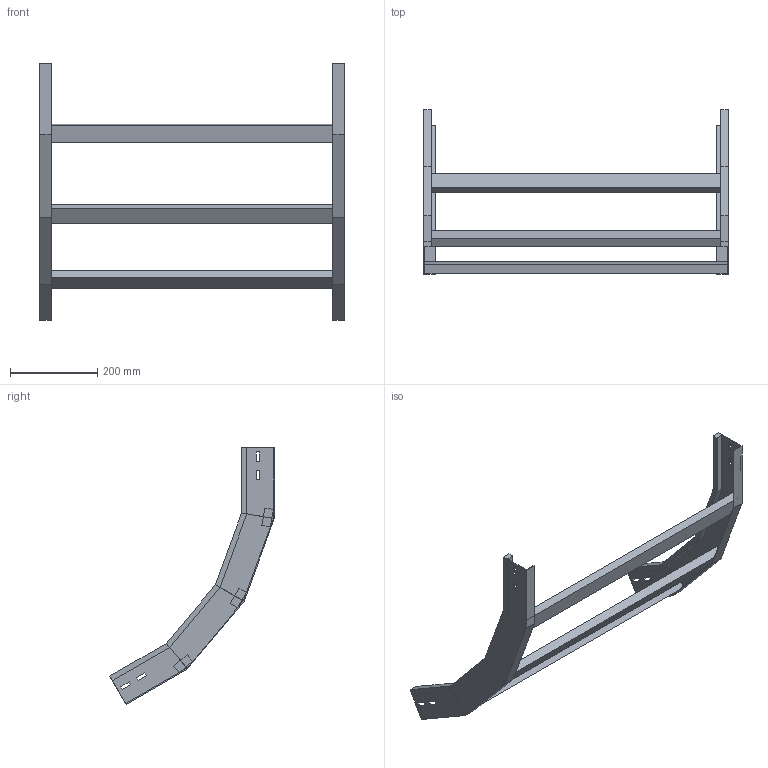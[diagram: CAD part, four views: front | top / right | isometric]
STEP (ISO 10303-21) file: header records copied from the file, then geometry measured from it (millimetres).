
FILE_DESCRIPTION (( 'STEP AP214' ), '1' );
FILE_NAME ('A2X40B5C700XX.step', '2025-03-20T10:17:29', ( '' ), ( '' ), 'SwSTEP 2.0', 'SolidWorks 2023', '' );
FILE_SCHEMA (( 'AUTOMOTIVE_DESIGN' ));
Length unit declared in the file: millimetre
Products named in the file (3): A2X40B5C700XX; TRAVERSINO_700; LONGH.SALITA_60°_H75_R500
Assembly tree (5 placements, depth 2):
  A2X40B5C700XX
    LONGH.SALITA_60°_H75_R500  x2
    TRAVERSINO_700  x3
Bounding box: 700 x 377.79 x 589.4 mm (x, y, z)
Volume: 2221410 mm3; surface area: 585291.6 mm2
Topology: 5 solids, 5 shells, 118 faces, 276 edges, 168 vertices
Faces by surface type: plane 118
Entity records: 1672 total; most frequent: CARTESIAN_POINT 276, ORIENTED_EDGE 264, DIRECTION 260, LINE 132, EDGE_CURVE 132, VECTOR 132, VERTEX_POINT 80, AXIS2_PLACEMENT_3D 64
